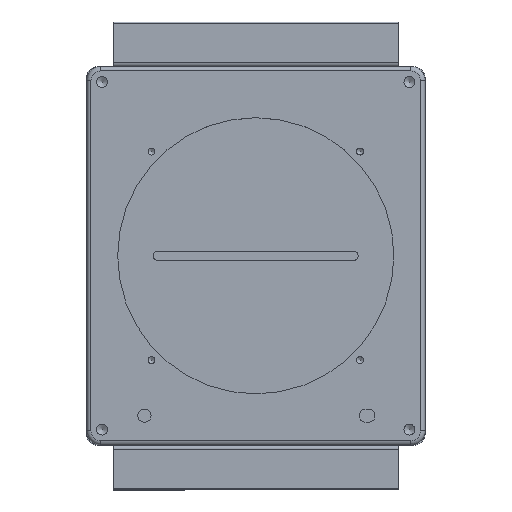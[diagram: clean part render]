
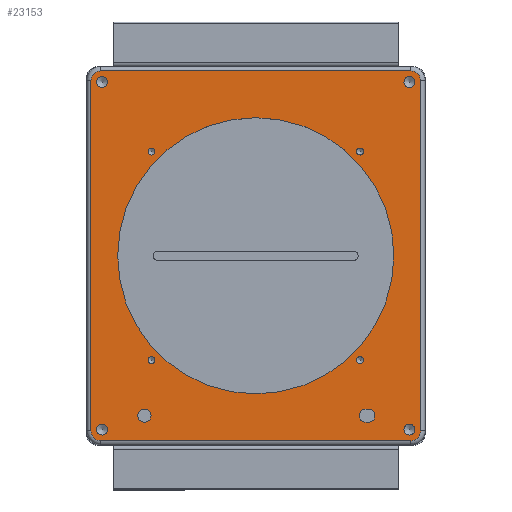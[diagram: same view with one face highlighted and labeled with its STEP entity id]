
A CAD part, top view. The second image highlights one B-rep face of the part: STEP entity #23153.
In plain terms, the highlighted planar face has unit normal (0, 0, 1).
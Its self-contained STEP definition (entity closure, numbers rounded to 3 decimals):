
#21791=CARTESIAN_POINT('',(25.25,-34.4,19.135));
#21792=VERTEX_POINT('',#21791);
#21799=CARTESIAN_POINT('',(24.75,-34.4,19.135));
#21800=VERTEX_POINT('',#21799);
#21801=CARTESIAN_POINT('',(24.75,-34.4,19.135));
#21802=DIRECTION('',(1.0,0.0,0.0));
#21803=VECTOR('',#21802,0.5);
#21804=LINE('',#21801,#21803);
#21805=EDGE_CURVE('',#21800,#21792,#21804,.T.);
#21822=CARTESIAN_POINT('',(25.25,-37.4,19.135));
#21823=VERTEX_POINT('',#21822);
#21830=CARTESIAN_POINT('',(25.25,-35.9,19.135));
#21831=DIRECTION('',(0.0,0.0,-1.0));
#21832=DIRECTION('',(0.0,1.0,0.0));
#21833=AXIS2_PLACEMENT_3D('',#21830,#21831,#21832);
#21834=CIRCLE('',#21833,1.5);
#21835=EDGE_CURVE('',#21792,#21823,#21834,.T.);
#21877=CARTESIAN_POINT('',(-23.5,-35.9,19.135));
#21878=VERTEX_POINT('',#21877);
#21879=CARTESIAN_POINT('',(-25.0,-35.9,19.135));
#21880=DIRECTION('',(0.0,0.0,-1.0));
#21881=DIRECTION('',(-1.0,0.0,0.0));
#21882=AXIS2_PLACEMENT_3D('',#21879,#21880,#21881);
#21883=CIRCLE('',#21882,1.5);
#21884=EDGE_CURVE('',#21878,#21878,#21883,.T.);
#21905=CARTESIAN_POINT('',(24.75,-37.4,19.135));
#21906=VERTEX_POINT('',#21905);
#21907=CARTESIAN_POINT('',(24.75,-35.9,19.135));
#21908=DIRECTION('',(0.0,0.0,-1.0));
#21909=DIRECTION('',(0.0,-1.0,0.0));
#21910=AXIS2_PLACEMENT_3D('',#21907,#21908,#21909);
#21911=CIRCLE('',#21910,1.5);
#21912=EDGE_CURVE('',#21906,#21800,#21911,.T.);
#21930=CARTESIAN_POINT('',(25.25,-37.4,19.135));
#21931=DIRECTION('',(-1.0,0.0,0.0));
#21932=VECTOR('',#21931,0.5);
#21933=LINE('',#21930,#21932);
#21934=EDGE_CURVE('',#21823,#21906,#21933,.T.);
#22646=CARTESIAN_POINT('',(-34.8,41.5,19.135));
#22647=VERTEX_POINT('',#22646);
#22655=CARTESIAN_POINT('',(34.8,41.5,19.135));
#22656=VERTEX_POINT('',#22655);
#22657=CARTESIAN_POINT('',(-34.8,41.5,19.135));
#22658=DIRECTION('',(1.0,0.0,0.0));
#22659=VECTOR('',#22658,69.6);
#22660=LINE('',#22657,#22659);
#22661=EDGE_CURVE('',#22647,#22656,#22660,.T.);
#22688=CARTESIAN_POINT('',(-37.0,39.3,19.135));
#22689=VERTEX_POINT('',#22688);
#22697=CARTESIAN_POINT('',(-34.8,39.3,19.135));
#22698=DIRECTION('',(0.,0.,-1.));
#22699=DIRECTION('',(-0.707,0.707,0.));
#22700=AXIS2_PLACEMENT_3D('',#22697,#22698,#22699);
#22701=CIRCLE('',#22700,2.2);
#22702=EDGE_CURVE('',#22689,#22647,#22701,.T.);
#22720=CARTESIAN_POINT('',(37.0,39.3,19.135));
#22721=VERTEX_POINT('',#22720);
#22739=CARTESIAN_POINT('',(34.8,39.3,19.135));
#22740=DIRECTION('',(0.,0.,-1.));
#22741=DIRECTION('',(0.707,0.707,0.));
#22742=AXIS2_PLACEMENT_3D('',#22739,#22740,#22741);
#22743=CIRCLE('',#22742,2.2);
#22744=EDGE_CURVE('',#22656,#22721,#22743,.T.);
#22756=CARTESIAN_POINT('',(-37.0,-39.3,19.135));
#22757=VERTEX_POINT('',#22756);
#22765=CARTESIAN_POINT('',(-37.0,-39.3,19.135));
#22766=DIRECTION('',(0.0,1.0,0.0));
#22767=VECTOR('',#22766,78.6);
#22768=LINE('',#22765,#22767);
#22769=EDGE_CURVE('',#22757,#22689,#22768,.T.);
#22786=CARTESIAN_POINT('',(37.0,-39.3,19.135));
#22787=VERTEX_POINT('',#22786);
#22804=CARTESIAN_POINT('',(37.0,39.3,19.135));
#22805=DIRECTION('',(0.0,-1.0,0.0));
#22806=VECTOR('',#22805,78.6);
#22807=LINE('',#22804,#22806);
#22808=EDGE_CURVE('',#22721,#22787,#22807,.T.);
#22820=CARTESIAN_POINT('',(-34.8,-41.5,19.135));
#22821=VERTEX_POINT('',#22820);
#22829=CARTESIAN_POINT('',(-34.8,-39.3,19.135));
#22830=DIRECTION('',(0.,0.,-1.));
#22831=DIRECTION('',(-0.707,-0.707,0.));
#22832=AXIS2_PLACEMENT_3D('',#22829,#22830,#22831);
#22833=CIRCLE('',#22832,2.2);
#22834=EDGE_CURVE('',#22821,#22757,#22833,.T.);
#22852=CARTESIAN_POINT('',(34.8,-41.5,19.135));
#22853=VERTEX_POINT('',#22852);
#22871=CARTESIAN_POINT('',(34.8,-39.3,19.135));
#22872=DIRECTION('',(0.,0.,-1.));
#22873=DIRECTION('',(0.707,-0.707,0.));
#22874=AXIS2_PLACEMENT_3D('',#22871,#22872,#22873);
#22875=CIRCLE('',#22874,2.2);
#22876=EDGE_CURVE('',#22787,#22853,#22875,.T.);
#22894=CARTESIAN_POINT('',(34.8,-41.5,19.135));
#22895=DIRECTION('',(-1.0,0.0,0.0));
#22896=VECTOR('',#22895,69.6);
#22897=LINE('',#22894,#22896);
#22898=EDGE_CURVE('',#22853,#22821,#22897,.T.);
#23030=CARTESIAN_POINT('',(0.,0.,19.135));
#23031=DIRECTION('',(0.0,0.0,1.0));
#23032=DIRECTION('',(1.0,0.0,0.0));
#23033=AXIS2_PLACEMENT_3D('',#23030,#23031,#23032);
#23034=PLANE('',#23033);
#23035=ORIENTED_EDGE('',*,*,#22661,.F.);
#23036=ORIENTED_EDGE('',*,*,#22702,.F.);
#23037=ORIENTED_EDGE('',*,*,#22769,.F.);
#23038=ORIENTED_EDGE('',*,*,#22834,.F.);
#23039=ORIENTED_EDGE('',*,*,#22898,.F.);
#23040=ORIENTED_EDGE('',*,*,#22876,.F.);
#23041=ORIENTED_EDGE('',*,*,#22808,.F.);
#23042=ORIENTED_EDGE('',*,*,#22744,.F.);
#23043=EDGE_LOOP('',(#23035,#23036,#23037,#23038,#23039,#23040,#23041,#23042));
#23044=FACE_OUTER_BOUND('',#23043,.T.);
#23045=ORIENTED_EDGE('',*,*,#21884,.T.);
#23046=EDGE_LOOP('',(#23045));
#23047=FACE_BOUND('',#23046,.T.);
#23048=ORIENTED_EDGE('',*,*,#21912,.T.);
#23049=ORIENTED_EDGE('',*,*,#21805,.T.);
#23050=ORIENTED_EDGE('',*,*,#21835,.T.);
#23051=ORIENTED_EDGE('',*,*,#21934,.T.);
#23052=EDGE_LOOP('',(#23048,#23049,#23050,#23051));
#23053=FACE_BOUND('',#23052,.T.);
#23054=CARTESIAN_POINT('',(31.0,0.,19.135));
#23055=VERTEX_POINT('',#23054);
#23056=CARTESIAN_POINT('',(0.0,0.0,19.135));
#23057=DIRECTION('',(0.0,0.0,1.0));
#23058=DIRECTION('',(-1.0,0.0,0.0));
#23059=AXIS2_PLACEMENT_3D('',#23056,#23057,#23058);
#23060=CIRCLE('',#23059,31.0);
#23061=EDGE_CURVE('',#23055,#23055,#23060,.T.);
#23062=ORIENTED_EDGE('',*,*,#23061,.F.);
#23063=EDGE_LOOP('',(#23062));
#23064=FACE_BOUND('',#23063,.T.);
#23065=CARTESIAN_POINT('',(35.73,-39.,19.135));
#23066=VERTEX_POINT('',#23065);
#23067=CARTESIAN_POINT('',(34.5,-39.,19.135));
#23068=DIRECTION('',(0.0,0.0,1.0));
#23069=DIRECTION('',(1.0,0.0,0.0));
#23070=AXIS2_PLACEMENT_3D('',#23067,#23068,#23069);
#23071=CIRCLE('',#23070,1.23);
#23072=EDGE_CURVE('',#23066,#23066,#23071,.T.);
#23073=ORIENTED_EDGE('',*,*,#23072,.F.);
#23074=EDGE_LOOP('',(#23073));
#23075=FACE_BOUND('',#23074,.T.);
#23076=CARTESIAN_POINT('',(35.729,39.0,19.135));
#23077=VERTEX_POINT('',#23076);
#23078=CARTESIAN_POINT('',(34.5,39.0,19.135));
#23079=DIRECTION('',(0.0,0.0,1.0));
#23080=DIRECTION('',(1.0,0.0,0.0));
#23081=AXIS2_PLACEMENT_3D('',#23078,#23079,#23080);
#23082=CIRCLE('',#23081,1.23);
#23083=EDGE_CURVE('',#23077,#23077,#23082,.T.);
#23084=ORIENTED_EDGE('',*,*,#23083,.F.);
#23085=EDGE_LOOP('',(#23084));
#23086=FACE_BOUND('',#23085,.T.);
#23087=CARTESIAN_POINT('',(-33.271,39.0,19.135));
#23088=VERTEX_POINT('',#23087);
#23089=CARTESIAN_POINT('',(-34.5,39.0,19.135));
#23090=DIRECTION('',(0.0,0.0,1.0));
#23091=DIRECTION('',(1.0,0.0,0.0));
#23092=AXIS2_PLACEMENT_3D('',#23089,#23090,#23091);
#23093=CIRCLE('',#23092,1.23);
#23094=EDGE_CURVE('',#23088,#23088,#23093,.T.);
#23095=ORIENTED_EDGE('',*,*,#23094,.F.);
#23096=EDGE_LOOP('',(#23095));
#23097=FACE_BOUND('',#23096,.T.);
#23098=CARTESIAN_POINT('',(-33.27,-39.0,19.135));
#23099=VERTEX_POINT('',#23098);
#23100=CARTESIAN_POINT('',(-34.5,-39.0,19.135));
#23101=DIRECTION('',(0.0,0.0,1.0));
#23102=DIRECTION('',(1.0,0.0,0.0));
#23103=AXIS2_PLACEMENT_3D('',#23100,#23101,#23102);
#23104=CIRCLE('',#23103,1.23);
#23105=EDGE_CURVE('',#23099,#23099,#23104,.T.);
#23106=ORIENTED_EDGE('',*,*,#23105,.F.);
#23107=EDGE_LOOP('',(#23106));
#23108=FACE_BOUND('',#23107,.T.);
#23109=CARTESIAN_POINT('',(-22.622,-23.405,19.135));
#23110=VERTEX_POINT('',#23109);
#23111=CARTESIAN_POINT('',(-23.405,-23.405,19.135));
#23112=DIRECTION('',(0.0,0.0,1.0));
#23113=DIRECTION('',(1.0,0.0,0.0));
#23114=AXIS2_PLACEMENT_3D('',#23111,#23112,#23113);
#23115=CIRCLE('',#23114,0.784);
#23116=EDGE_CURVE('',#23110,#23110,#23115,.T.);
#23117=ORIENTED_EDGE('',*,*,#23116,.F.);
#23118=EDGE_LOOP('',(#23117));
#23119=FACE_BOUND('',#23118,.T.);
#23120=CARTESIAN_POINT('',(24.188,23.405,19.135));
#23121=VERTEX_POINT('',#23120);
#23122=CARTESIAN_POINT('',(23.405,23.405,19.135));
#23123=DIRECTION('',(0.0,0.0,1.0));
#23124=DIRECTION('',(1.0,0.0,0.0));
#23125=AXIS2_PLACEMENT_3D('',#23122,#23123,#23124);
#23126=CIRCLE('',#23125,0.784);
#23127=EDGE_CURVE('',#23121,#23121,#23126,.T.);
#23128=ORIENTED_EDGE('',*,*,#23127,.F.);
#23129=EDGE_LOOP('',(#23128));
#23130=FACE_BOUND('',#23129,.T.);
#23131=CARTESIAN_POINT('',(-22.622,23.405,19.135));
#23132=VERTEX_POINT('',#23131);
#23133=CARTESIAN_POINT('',(-23.405,23.405,19.135));
#23134=DIRECTION('',(0.0,0.0,1.0));
#23135=DIRECTION('',(1.0,0.0,0.0));
#23136=AXIS2_PLACEMENT_3D('',#23133,#23134,#23135);
#23137=CIRCLE('',#23136,0.784);
#23138=EDGE_CURVE('',#23132,#23132,#23137,.T.);
#23139=ORIENTED_EDGE('',*,*,#23138,.F.);
#23140=EDGE_LOOP('',(#23139));
#23141=FACE_BOUND('',#23140,.T.);
#23142=CARTESIAN_POINT('',(24.188,-23.405,19.135));
#23143=VERTEX_POINT('',#23142);
#23144=CARTESIAN_POINT('',(23.405,-23.405,19.135));
#23145=DIRECTION('',(0.0,0.0,1.0));
#23146=DIRECTION('',(1.0,0.0,0.0));
#23147=AXIS2_PLACEMENT_3D('',#23144,#23145,#23146);
#23148=CIRCLE('',#23147,0.784);
#23149=EDGE_CURVE('',#23143,#23143,#23148,.T.);
#23150=ORIENTED_EDGE('',*,*,#23149,.F.);
#23151=EDGE_LOOP('',(#23150));
#23152=FACE_BOUND('',#23151,.T.);
#23153=ADVANCED_FACE('',(#23044,#23047,#23053,#23064,#23075,#23086,#23097,#23108,#23119,#23130,#23141,#23152),#23034,.T.);
